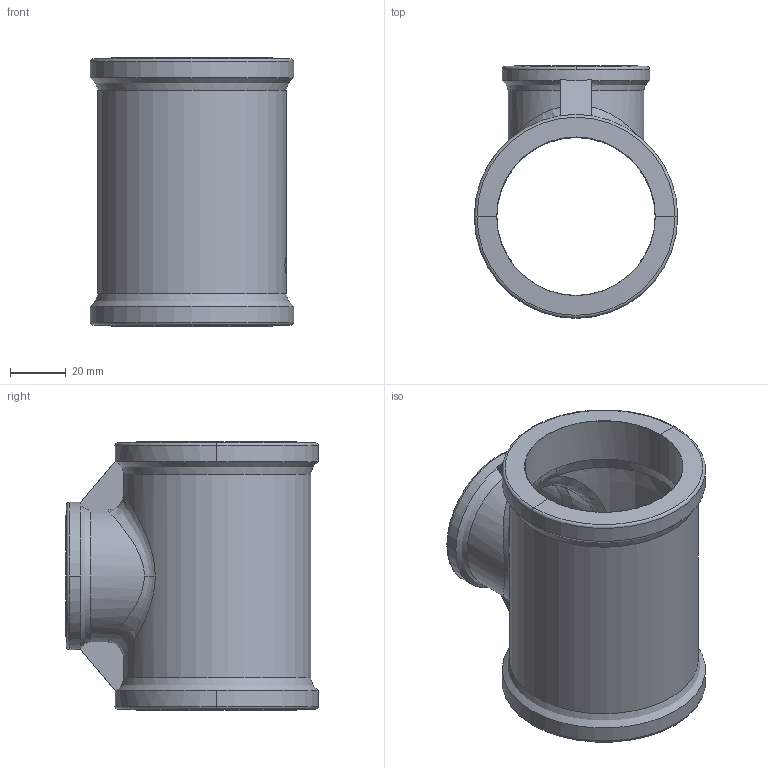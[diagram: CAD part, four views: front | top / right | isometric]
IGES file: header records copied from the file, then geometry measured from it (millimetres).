
Global section: file name: No Iges File Name specified; native system: AutoDesk Inventor R12.0; preprocessor: AutoDesk Inventor Iges Exporter R12.0; date: 20090916.162217; units: millimetre
Bounding box: 72.8 x 90.4 x 96 mm (x, y, z)
Volume: 112681.7 mm3; surface area: 46766.3 mm2
Topology: 1 solids, 1 shells, 74 faces, 201 edges, 131 vertices
Faces by surface type: bspline 28, plane 19, cylinder 12, cone 6, torus 6, revolution 3
